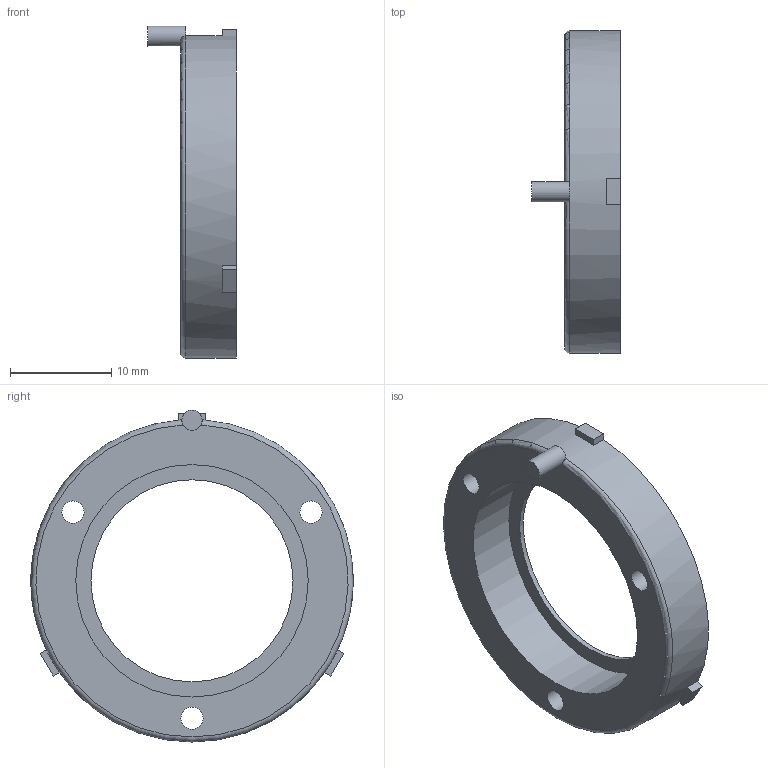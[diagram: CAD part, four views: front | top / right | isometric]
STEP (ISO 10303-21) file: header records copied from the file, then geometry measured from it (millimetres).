
FILE_DESCRIPTION(('Open CASCADE Model'),'2;1');
FILE_NAME('Open CASCADE Shape Model','2026-11-01T16:33:57',('Author'),( 'Open CASCADE'),'Open CASCADE STEP processor 8.0','build123d', 'Unknown');
FILE_SCHEMA(('AUTOMOTIVE_DESIGN { 1 0 10303 214 1 1 1 1 }'));
Length unit declared in the file: millimetre
Products named in the file (1): SOLID
Bounding box: 8.75 x 31.88 x 32.85 mm (x, y, z)
Volume: 2080 mm3; surface area: 2044.8 mm2
Topology: 1 solids, 1 shells, 31 faces, 73 edges, 48 vertices
Faces by surface type: plane 20, cylinder 10, torus 1
Full cylindrical faces by diameter (mm): 2 x1, 2.2 x3, 4 x3, 20 x1, 23 x1, 31.9 x1
Entity records: 1955 total; most frequent: CARTESIAN_POINT 413, DIRECTION 296, ORIENTED_EDGE 146, PCURVE 146, DEFINITIONAL_REPRESENTATION 146, LINE 140, VECTOR 140, EDGE_CURVE 73
